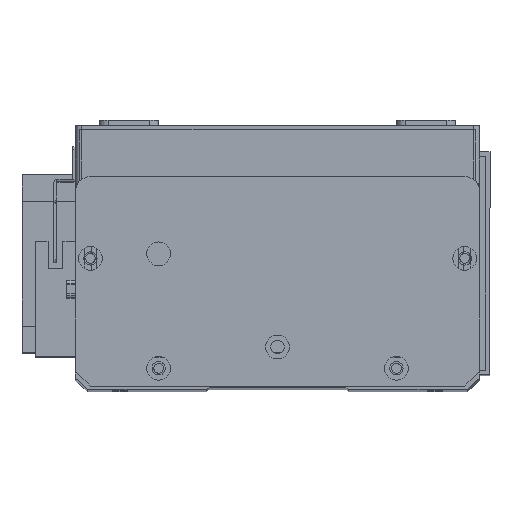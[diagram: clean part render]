
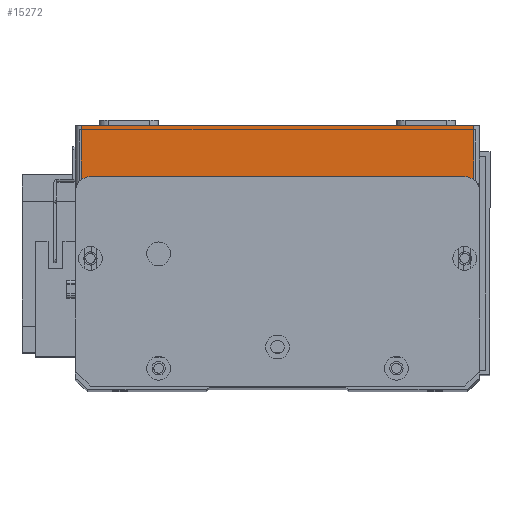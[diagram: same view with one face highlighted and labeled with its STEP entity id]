
A CAD part, top view. The second image highlights one B-rep face of the part: STEP entity #15272.
In plain terms, the highlighted planar face has unit normal (0, 0, 1) as drawn and (0, -1, 0) by its records, which use the part's own axes.
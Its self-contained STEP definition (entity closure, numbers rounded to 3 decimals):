
#1204 = ORIENTED_EDGE ( 'NONE', *, *, #20941, .T. ) ;
#1253 = EDGE_CURVE ( 'NONE', #19950, #27911, #14727, .T. ) ;
#1620 = CARTESIAN_POINT ( 'NONE',  ( 2., 0., 0. ) ) ;
#1851 = VECTOR ( 'NONE', #25694, 1000. ) ;
#1900 = ORIENTED_EDGE ( 'NONE', *, *, #1253, .T. ) ;
#2803 = CARTESIAN_POINT ( 'NONE',  ( 134., 0., 0. ) ) ;
#6576 = CARTESIAN_POINT ( 'NONE',  ( 2., 0., 19.5 ) ) ;
#6671 = DIRECTION ( 'NONE',  ( 0., 0., -1. ) ) ;
#6721 = EDGE_CURVE ( 'NONE', #15912, #17428, #12746, .T. ) ;
#6729 = VECTOR ( 'NONE', #6671, 1000. ) ;
#8148 = DIRECTION ( 'NONE',  ( 0., 0., 1. ) ) ;
#8256 = DIRECTION ( 'NONE',  ( 0., 1., 0. ) ) ;
#8447 = PLANE ( 'NONE',  #22674 ) ;
#8536 = FACE_OUTER_BOUND ( 'NONE', #18176, .T. ) ;
#8652 = CARTESIAN_POINT ( 'NONE',  ( 0., 0., 19.5 ) ) ;
#10163 = CARTESIAN_POINT ( 'NONE',  ( 134., 0., 19.5 ) ) ;
#10361 = DIRECTION ( 'NONE',  ( 0., 0., 1. ) ) ;
#10487 = CARTESIAN_POINT ( 'NONE',  ( 0., 0., 0. ) ) ;
#12746 = LINE ( 'NONE', #6576, #6729 ) ;
#14727 = LINE ( 'NONE', #10163, #26714 ) ;
#15272 = ADVANCED_FACE ( 'NONE', ( #8536 ), #8447, .F. ) ;
#15782 = EDGE_CURVE ( 'NONE', #15912, #27911, #19848, .T. ) ;
#15912 = VERTEX_POINT ( 'NONE', #23625 ) ;
#17428 = VERTEX_POINT ( 'NONE', #1620 ) ;
#18176 = EDGE_LOOP ( 'NONE', ( #25902, #28686, #1204, #1900 ) ) ;
#19848 = LINE ( 'NONE', #25740, #1851 ) ;
#19950 = VERTEX_POINT ( 'NONE', #2803 ) ;
#20941 = EDGE_CURVE ( 'NONE', #17428, #19950, #21196, .T. ) ;
#21196 = LINE ( 'NONE', #10487, #26454 ) ;
#22674 = AXIS2_PLACEMENT_3D ( 'NONE', #8652, #8256, #8148 ) ;
#23625 = CARTESIAN_POINT ( 'NONE',  ( 2., 0., 19.5 ) ) ;
#25694 = DIRECTION ( 'NONE',  ( 1., 0., 0. ) ) ;
#25740 = CARTESIAN_POINT ( 'NONE',  ( 0., 0., 19.5 ) ) ;
#25902 = ORIENTED_EDGE ( 'NONE', *, *, #15782, .F. ) ;
#26454 = VECTOR ( 'NONE', #28488, 1000. ) ;
#26714 = VECTOR ( 'NONE', #10361, 1000. ) ;
#27594 = CARTESIAN_POINT ( 'NONE',  ( 134., 0., 19.5 ) ) ;
#27911 = VERTEX_POINT ( 'NONE', #27594 ) ;
#28488 = DIRECTION ( 'NONE',  ( 1., 0., 0. ) ) ;
#28686 = ORIENTED_EDGE ( 'NONE', *, *, #6721, .T. ) ;
